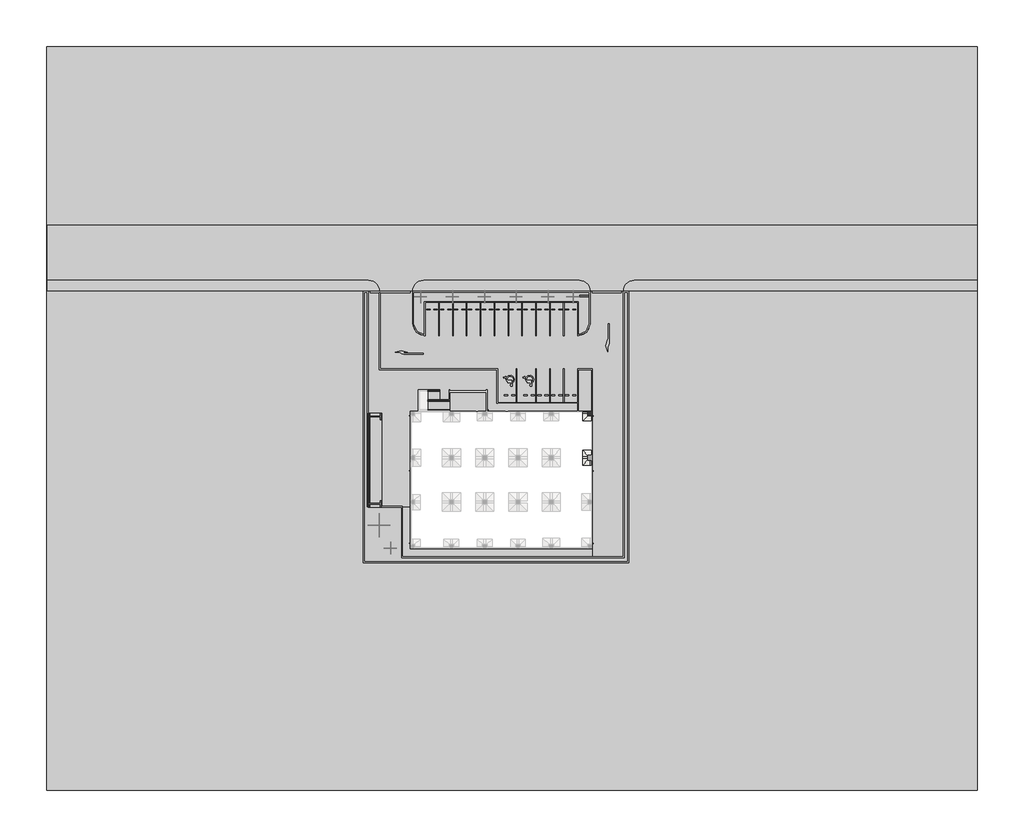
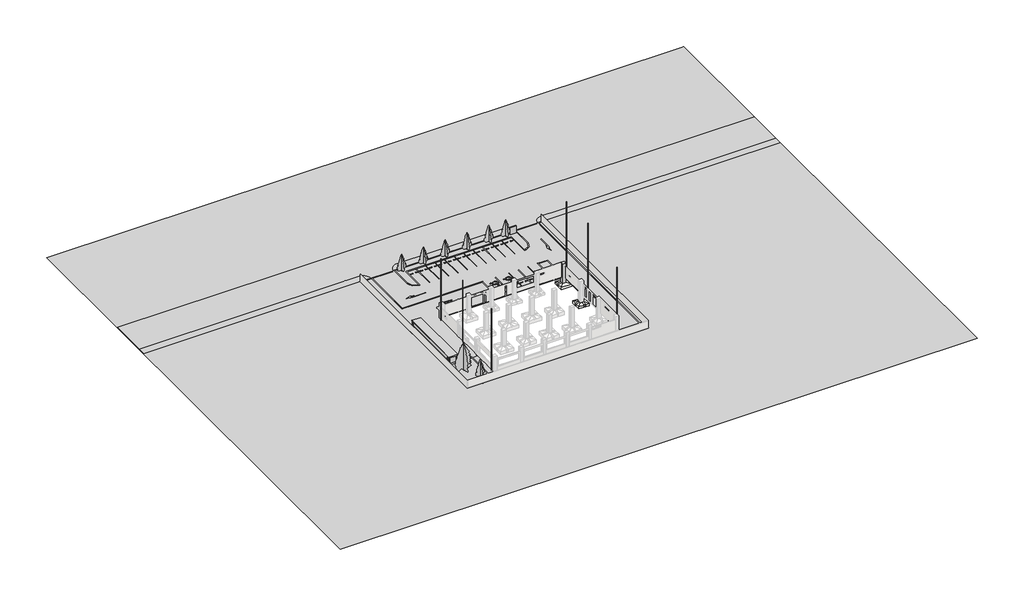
# One storey, part 4 of 4: 34 proxies, 14 geographic elements, 4 railings, 2 ramps, 2 slabs, 1 column.
"""IFC4 building model written with IfcOpenShell, lengths in millimetres."""

from ifc_helpers import new_model, si_unit, frame, origin, place, context, project, spatial, polyline, outline, extrude, faceted_brep, triangles, transform, mapped, element, save
from components import parking_f053e08a, parking_47fc6d20, parking_146f316f, generic_models_576e4361, generic_models_93210aff, generic_models_82cc7334, geographic_element_0894a9f6, geographic_element_8a4f6f01, geographic_element_bdb0ab01, geographic_element_bd6ab4d7, geographic_element_62d1d38a, w200_b9cd528b, w200_ae710f6c, ramp_1_20_a26907a8, ramp_1_20_5bf82f81

model = new_model("IFC4")

# Units and contexts
model_context = context("Model", 3, world=origin())
ifc_project = project(units=[si_unit("LENGTHUNIT", "METRE", prefix="MILLI")], contexts=[model_context])

# Site, building, storey
site = spatial("IfcSite", under=ifc_project)
building = spatial("IfcBuilding", under=site)
storey = spatial("IfcBuildingStorey", under=building, Name="設計GL=平均地盤面", Elevation=-300.0)

# Proxies
placement = place(None, origin())
element("IfcBuildingElementProxy", 1, Name="Building Element Proxy", at=placement, inside=storey, context=model_context, shape_type="Tessellation", body=[
    triangles([(-65997.3529907, 90131.6519531, -300.0000023), (-65997.3529907, -43956.954126, -300.0000023), (101830.4634521, -43956.954126, -300.0000023), (101830.4634521, 46000.0015137, -300.0000023), (39976.1878052, 46000.0015137, -300.0000023), (38925.0008057, 46000.0015137, -300.0000023), (38925.0008057, 45250.0007813, -300.0000023), (38925.0008057, -2900.0000221, -300.0000023), (-4888.888797, -2900.0000221, -300.0000023), (-8899.9997772, -2900.0000221, -300.0000023), (-8899.9997772, 46000.0015137, -300.0000023), (-65924.9992676, 46000.0015137, -300.0000023), (-65924.9992676, 48000.0003662, -300.0000023), (-65924.9992676, 57999.9992798, -300.0000023), (-24425.5486267, 57999.9992798, -300.0000023), (10395.1794434, 57999.9992798, -300.0000023), (56029.8544189, 57999.9992798, -300.0000023), (56795.2123535, 57999.9992798, -300.0000023), (101830.4634521, 57999.9992798, -300.0000023), (101830.4634521, 90131.6519531, -300.0000023)], [[2, 12, 1], [12, 2, 10], [9, 10, 2], [10, 11, 12], [2, 8, 9], [1, 14, 15], [14, 1, 13], [15, 16, 1], [1, 12, 13], [1, 16, 20], [6, 7, 5], [8, 4, 5], [3, 8, 2], [4, 8, 3], [8, 5, 7], [17, 18, 20], [19, 20, 18], [17, 20, 16]], closed=False),
])
element("IfcBuildingElementProxy", 2, Name="Building Element Proxy", at=placement, inside=storey, context=model_context, shape_type="Tessellation", body=[
    triangles([(0.0, 46000.0015137, -300.0000023), (50.1441776, 46445.0441162, -300.0000023), (198.0622564, 46867.7671509, -300.0000023), (436.3370293, 47246.9812134, -300.0000023), (753.0203882, 47563.664209, -300.0000023), (1132.2324886, 47801.9380371, -300.0000023), (1554.9581394, 47949.8545898, -300.0000023), (2000.0000153, 48000.0003662, -300.0000023), (29999.9990662, 48000.0003662, -300.0000023), (30445.0416687, 47949.8545898, -300.0000023), (30867.7670288, 47801.9380371, -300.0000023), (31246.9787659, 47563.664209, -300.0000023), (31563.6640869, 47246.9812134, -300.0000023), (31801.937915, 46867.7671509, -300.0000023), (31949.8567932, 46445.0441162, -300.0000023), (32000.0002441, 46000.0015137, -300.0000023), (37999.9991272, 46000.0015137, -300.0000023), (38041.8547119, 46371.462561, -300.0000023), (38050.1449036, 46445.0441162, -300.0000023), (38198.0614563, 46867.7671509, -300.0000023), (38436.3376099, 47246.9812134, -300.0000023), (38753.0206055, 47563.664209, -300.0000023), (39132.234668, 47801.9380371, -300.0000023), (39554.9577026, 47949.8545898, -300.0000023), (40000.0003052, 48000.0003662, -300.0000023), (41775.8081909, 48000.0003662, -300.0000023), (42779.3608887, 48000.0003662, -300.0000023), (101830.4634521, 48000.0003662, -300.0000023), (101830.4634521, 57999.9992798, -300.0000023), (56795.2123535, 57999.9992798, -300.0000023), (56029.8544189, 57999.9992798, -300.0000023), (10395.1794434, 57999.9992798, -300.0000023), (-24425.5486267, 57999.9992798, -300.0000023), (-65924.9992676, 57999.9992798, -300.0000023), (-65924.9992676, 48000.0003662, -300.0000023), (-11487.5918335, 48000.0003662, -300.0000023), (-8000.000061, 48000.0003662, -300.0000023), (-7554.9580399, 47949.8545898, -300.0000023), (-7132.2326797, 47801.9380371, -300.0000023), (-6753.0203613, 47563.664209, -300.0000023), (-6436.3367844, 47246.9812134, -300.0000023), (-6198.0623749, 46867.7671509, -300.0000023), (-6050.1440781, 46445.0441162, -300.0000023), (-6000.0000458, 46000.0015137, -300.0000023)], [[42, 43, 2], [40, 41, 4], [39, 40, 5], [42, 3, 41], [1, 2, 43], [2, 3, 42], [5, 40, 4], [4, 41, 3], [1, 43, 44], [39, 5, 6], [35, 36, 33], [35, 33, 34], [33, 36, 37], [33, 37, 32], [38, 6, 7], [38, 7, 32], [8, 9, 32], [32, 9, 31], [8, 32, 7], [38, 32, 37], [6, 38, 39], [15, 16, 18], [13, 14, 21], [12, 13, 22], [15, 20, 14], [18, 19, 15], [17, 18, 16], [21, 22, 13], [20, 21, 14], [19, 20, 15], [12, 22, 23], [11, 23, 24], [23, 11, 12], [31, 10, 24], [24, 10, 11], [31, 24, 25], [31, 26, 27], [30, 27, 28], [27, 30, 31], [30, 28, 29], [26, 31, 25], [10, 31, 9]], closed=False),
])
element("IfcBuildingElementProxy", 3, Name="Building Element Proxy", at=placement, inside=storey, context=model_context, shape_type="Tessellation", body=[
    triangles([(-6000.0000458, 46000.0015137, -300.0000023), (-6000.0000458, 45953.1253052, -300.0000023), (-6000.0000458, 32000.0002441, -300.0000023), (11097.0586945, 32000.0002441, -300.0000023), (15324.9994629, 32000.0002441, -300.0000023), (15324.9994629, 25999.9990356, -300.0000023), (29750.0003723, 25999.9990356, -300.0000023), (29750.0003723, 32000.0002441, -300.0000023), (32399.9990845, 32000.0002441, -300.0000023), (32399.9990845, 982.1229012, -300.0000023), (32399.9990845, -1486.2751225, -300.0000023), (32399.9990845, -1510.3910923, -300.0000023), (32399.9990845, -1850.0000141, -300.0000023), (33904.7025879, -1850.0000141, -300.0000023), (33985.8790283, -1850.0000141, -300.0000023), (37093.9823364, -1850.0000141, -300.0000023), (37999.9991272, -1850.0000141, -300.0000023), (37999.9991272, 44775.141394, -300.0000023), (37999.9991272, 45265.6230835, -300.0000023), (37999.9991272, 46000.0015137, -300.0000023), (32000.0002441, 46000.0015137, -300.0000023), (32000.0002441, 45359.3755005, -300.0000023), (32000.0002441, 41925.975769, -300.0000023), (32000.0002441, 40249.998999, -300.0000023), (31956.7679993, 39811.0490479, -300.0000023), (31828.729303, 39388.9631836, -300.0000023), (31620.8071106, 38999.9659973, -300.0000023), (31340.9893066, 38659.0100647, -300.0000023), (31000.033374, 38379.1922607, -300.0000023), (30611.0385132, 38171.2700684, -300.0000023), (30188.9526489, 38043.2336975, -300.0000023), (29750.0003723, 37999.9991272, -300.0000023), (29750.0003723, 40857.5433105, -300.0000023), (29750.0003723, 43999.9980103, -300.0000023), (2250.0000172, 43999.9980103, -300.0000023), (2250.0000172, 37999.9991272, -300.0000023), (1811.0467232, 38043.2336975, -300.0000023), (1388.9623123, 38171.2700684, -300.0000023), (999.9669428, 38379.1922607, -300.0000023), (659.0097748, 38659.0100647, -300.0000023), (379.1933879, 38999.9659973, -300.0000023), (171.2710502, 39388.9631836, -300.0000023), (43.2331169, 39811.0490479, -300.0000023), (0.0, 40249.998999, -300.0000023), (0.0, 45859.3728882, -300.0000023), (0.0, 46000.0015137, -300.0000023)], [[3, 36, 37], [36, 3, 4], [38, 39, 3], [37, 38, 3], [3, 39, 40], [5, 6, 7], [5, 7, 8], [4, 5, 35], [32, 5, 8], [31, 32, 8], [4, 35, 36], [32, 33, 5], [44, 45, 2], [43, 44, 2], [1, 2, 46], [46, 2, 45], [2, 3, 43], [43, 3, 42], [42, 3, 41], [5, 34, 35], [33, 34, 5], [3, 40, 41], [10, 17, 9], [31, 9, 30], [31, 8, 9], [30, 9, 29], [10, 11, 14], [15, 16, 10], [16, 17, 10], [12, 13, 14], [14, 15, 10], [14, 11, 12], [9, 17, 18], [28, 29, 9], [28, 9, 27], [25, 26, 18], [24, 25, 18], [9, 26, 27], [22, 23, 18], [18, 23, 24], [22, 18, 19], [22, 20, 21], [20, 22, 19], [18, 26, 9]], closed=False),
])
element("IfcBuildingElementProxy", 4, Name="Building Element Proxy", at=placement, inside=storey, context=model_context, shape_type="Tessellation", body=[
    triangles([(-5750.0001892, 24000.0001831, -300.0000023), (-5750.0001892, 7263.51362, -300.0000023), (-5750.0001892, 7099.9997635, -300.0000023), (-5037.0640549, 7099.9997635, -300.0000023), (-400.0000031, 7099.9997635, -300.0000023), (-400.0000031, 20772.06698, -300.0000023), (-400.0000031, 24420.0001282, -300.0000023), (29750.0003723, 24420.0001282, -300.0000023), (29750.0003723, 25849.9988892, -300.0000023), (15175.0004791, 25849.9988892, -300.0000023), (15175.0004791, 31850.0000977, -300.0000023), (10781.1768127, 31850.0000977, -300.0000023), (-6000.0000458, 31850.0000977, -300.0000023), (-6000.0000458, 45953.1253052, -300.0000023), (-6000.0000458, 46000.0015137, -300.0000023), (-8000.000061, 46000.0015137, -300.0000023), (-8000.000061, 45984.3745605, -300.0000023), (-8000.000061, 39230.7681885, -300.0000023), (-8000.000061, 34081.0801941, -300.0000023), (-8000.000061, 24000.0001831, -300.0000023), (-7154.1952927, 24000.0001831, -300.0000023)], [[19, 20, 13], [13, 21, 1], [21, 13, 20], [19, 13, 18], [16, 17, 15], [14, 15, 17], [14, 18, 13], [14, 17, 18], [1, 2, 6], [4, 5, 6], [4, 6, 2], [2, 3, 4], [1, 6, 7], [7, 10, 12], [12, 10, 11], [12, 13, 7], [9, 10, 8], [8, 10, 7], [7, 13, 1]], closed=False),
])
element("IfcBuildingElementProxy", 5, Name="Building Element Proxy", at=placement, inside=storey, context=model_context, shape_type="Tessellation", body=[
    triangles([(0.0, 40249.998999, -300.0000023), (43.2331169, 39811.0490479, -300.0000023), (171.2710502, 39388.9631836, -300.0000023), (379.1933879, 38999.9659973, -300.0000023), (659.0097748, 38659.0100647, -300.0000023), (999.9669428, 38379.1922607, -300.0000023), (1388.9623123, 38171.2700684, -300.0000023), (1811.0467232, 38043.2336975, -300.0000023), (2250.0000172, 37999.9991272, -300.0000023), (2250.0000172, 43999.9980103, -300.0000023), (29750.0003723, 43999.9980103, -300.0000023), (29750.0003723, 40857.5433105, -300.0000023), (29750.0003723, 37999.9991272, -300.0000023), (30188.9526489, 38043.2336975, -300.0000023), (30611.0385132, 38171.2700684, -300.0000023), (31000.033374, 38379.1922607, -300.0000023), (31340.9893066, 38659.0100647, -300.0000023), (31620.8071106, 38999.9659973, -300.0000023), (31828.729303, 39388.9631836, -300.0000023), (31956.7679993, 39811.0490479, -300.0000023), (32000.0002441, 40249.998999, -300.0000023), (32000.0002441, 41925.975769, -300.0000023), (32000.0002441, 45359.3755005, -300.0000023), (32000.0002441, 46000.0015137, -300.0000023), (0.0, 46000.0015137, -300.0000023), (0.0, 45859.3728882, -300.0000023)], [[1, 4, 5], [6, 1, 5], [1, 7, 8], [6, 7, 1], [1, 8, 9], [26, 1, 10], [25, 26, 10], [4, 1, 3], [25, 10, 24], [1, 9, 10], [3, 1, 2], [12, 14, 15], [12, 15, 16], [17, 18, 12], [17, 12, 16], [18, 19, 12], [21, 22, 12], [19, 20, 12], [12, 20, 21], [22, 11, 12], [23, 24, 11], [22, 23, 11], [11, 24, 10], [12, 13, 14]], closed=False),
])
element("IfcBuildingElementProxy", 6, Name="Building Element Proxy", at=placement, inside=storey, context=model_context, shape_type="Tessellation", body=[
    triangles([(-5750.0001892, 7099.9997635, -300.0000023), (-8000.000061, 7099.9997635, -300.0000023), (-8225.0002808, 7099.9997635, -300.0000023), (-8225.0002808, 24000.0001831, -300.0000023), (-8000.000061, 24000.0001831, -300.0000023), (-8000.000061, 34081.0801941, -300.0000023), (-8000.000061, 39230.7681885, -300.0000023), (-8000.000061, 45984.3745605, -300.0000023), (-8000.000061, 46000.0015137, -300.0000023), (-8849.9999222, 46000.0015137, -300.0000023), (-8849.9999222, 45997.6574707, -300.0000023), (-8849.9999222, 44984.61698, -300.0000023), (-8849.9999222, 44212.1618042, -300.0000023), (-8849.9999222, 41741.9358398, -300.0000023), (-8849.9999222, 2225.8064358, -300.0000023), (-8849.9999222, -1045.1612772, -300.0000023), (-8849.9999222, -2533.846209, -300.0000023), (-8849.9999222, -2849.9998764, -300.0000023), (-4901.6775513, -2849.9998764, -300.0000023), (38335.3949341, -2849.9998764, -300.0000023), (38345.9849854, -2849.9998764, -300.0000023), (38751.388147, -2849.9998764, -300.0000023), (38850.0007324, -2849.9998764, -300.0000023), (38850.0007324, 45178.7725708, -300.0000023), (38850.0007324, 45252.3448242, -300.0000023), (38850.0007324, 46000.0015137, -300.0000023), (37999.9991272, 46000.0015137, -300.0000023), (37999.9991272, 45265.6230835, -300.0000023), (37999.9991272, 44775.141394, -300.0000023), (37999.9991272, -2000.0000153, -300.0000023), (37342.5927429, -2000.0000153, -300.0000023), (34639.8949219, -2000.0000153, -300.0000023), (34569.3062073, -2000.0000153, -300.0000023), (-2000.0000153, -2000.0000153, -300.0000023), (-2000.0000153, 6253.631076, -300.0000023), (-2000.0000153, 6403.4422806, -300.0000023), (-2000.0000153, 7099.9997635, -300.0000023), (-5037.0640549, 7099.9997635, -300.0000023)], [[19, 15, 16], [35, 38, 15], [17, 19, 16], [2, 3, 15], [38, 1, 15], [2, 15, 1], [15, 3, 4], [17, 18, 19], [8, 12, 13], [8, 11, 12], [10, 11, 9], [8, 13, 14], [6, 7, 14], [6, 4, 5], [9, 11, 8], [8, 14, 7], [4, 6, 14], [14, 15, 4], [32, 20, 31], [19, 20, 33], [20, 32, 33], [19, 33, 34], [22, 23, 30], [30, 20, 21], [20, 30, 31], [30, 21, 22], [23, 24, 30], [35, 15, 34], [37, 38, 36], [36, 38, 35], [24, 25, 28], [28, 26, 27], [26, 28, 25], [24, 28, 29], [30, 24, 29], [19, 34, 15]], closed=False),
])
element("IfcBuildingElementProxy", 7, Name="Building Element Proxy", at=placement, inside=storey, context=model_context, shape_type="Tessellation", body=[
    triangles([(32399.9990845, -420.0000177, -300.0000023), (27750.9293701, -420.0000177, -300.0000023), (27568.8125793, -420.0000177, -300.0000023), (-400.0000031, -420.0000177, -300.0000023), (-400.0000031, 5892.5141647, -300.0000023), (-400.0000031, 6036.4792145, -300.0000023), (-400.0000031, 7099.9997635, -300.0000023), (-1850.0000141, 7099.9997635, -300.0000023), (-1850.0000141, 6369.0397293, -300.0000023), (-1850.0000141, 6219.7767471, -300.0000023), (-1850.0000141, -1850.0000141, -300.0000023), (32399.9990845, -1850.0000141, -300.0000023), (32399.9990845, -1510.3910923, -300.0000023), (32399.9990845, -1486.2751225, -300.0000023)], [[5, 10, 4], [4, 10, 11], [10, 5, 6], [8, 9, 7], [6, 9, 10], [9, 6, 7], [13, 14, 2], [12, 13, 2], [11, 3, 4], [3, 12, 2], [14, 1, 2], [3, 11, 12]], closed=False),
])
element("IfcBuildingElementProxy", 8, Name="Building Element Proxy", at=placement, inside=storey, context=model_context, shape_type="Tessellation", body=[
    triangles([(32270.0000427, 31850.0000977, -300.0000023), (29900.0005188, 31850.0000977, -300.0000023), (29900.0005188, 24420.0001282, -300.0000023), (32270.0000427, 24420.0001282, -300.0000023)], [[2, 3, 4], [4, 1, 2]], closed=False),
])
element("IfcBuildingElementProxy", 9, Name="Building Element Proxy", at=placement, inside=storey, context=model_context, shape_type="Tessellation", body=[
    triangles([(-8899.9997772, 46000.0015137, -300.0000023), (-6000.0000458, 46000.0015137, -300.0000023), (-6050.1440781, 46445.0441162, -300.0000023), (-6198.0623749, 46867.7671509, -300.0000023), (-6436.3367844, 47246.9812134, -300.0000023), (-6753.0203613, 47563.664209, -300.0000023), (-7132.2326797, 47801.9380371, -300.0000023), (-7554.9580399, 47949.8545898, -300.0000023), (-8000.000061, 48000.0003662, -300.0000023), (-11487.5918335, 48000.0003662, -300.0000023), (-65924.9992676, 48000.0003662, -300.0000023), (-65924.9992676, 46000.0015137, -300.0000023), (38925.0008057, 46000.0015137, -300.0000023), (39976.1878052, 46000.0015137, -300.0000023), (101830.4634521, 46000.0015137, -300.0000023), (101830.4634521, 48000.0003662, -300.0000023), (42779.3608887, 48000.0003662, -300.0000023), (41775.8081909, 48000.0003662, -300.0000023), (40000.0003052, 48000.0003662, -300.0000023), (39554.9577026, 47949.8545898, -300.0000023), (39132.234668, 47801.9380371, -300.0000023), (38753.0206055, 47563.664209, -300.0000023), (38436.3376099, 47246.9812134, -300.0000023), (38198.0614563, 46867.7671509, -300.0000023), (38050.1449036, 46445.0441162, -300.0000023), (38041.8547119, 46371.462561, -300.0000023), (37999.9991272, 46000.0015137, -300.0000023), (0.0, 46000.0015137, -300.0000023), (32000.0002441, 46000.0015137, -300.0000023), (31949.8567932, 46445.0441162, -300.0000023), (31801.937915, 46867.7671509, -300.0000023), (31563.6640869, 47246.9812134, -300.0000023), (31246.9787659, 47563.664209, -300.0000023), (30867.7670288, 47801.9380371, -300.0000023), (30445.0416687, 47949.8545898, -300.0000023), (29999.9990662, 48000.0003662, -300.0000023), (2000.0000153, 48000.0003662, -300.0000023), (1554.9581394, 47949.8545898, -300.0000023), (1132.2324886, 47801.9380371, -300.0000023), (753.0203882, 47563.664209, -300.0000023), (436.3370293, 47246.9812134, -300.0000023), (198.0622564, 46867.7671509, -300.0000023), (50.1441776, 46445.0441162, -300.0000023)], [[10, 12, 1], [1, 4, 5], [4, 1, 3], [1, 2, 3], [6, 1, 5], [28, 42, 43], [42, 28, 41], [28, 40, 41], [7, 8, 1], [1, 9, 10], [9, 1, 8], [10, 11, 12], [40, 28, 39], [38, 39, 28], [28, 37, 38], [28, 36, 37], [1, 6, 7], [28, 29, 36], [29, 31, 32], [31, 29, 30], [29, 32, 33], [23, 24, 13], [14, 22, 13], [13, 25, 26], [25, 13, 24], [13, 26, 27], [15, 17, 14], [35, 29, 34], [13, 22, 23], [34, 29, 33], [21, 22, 14], [20, 21, 14], [20, 14, 19], [18, 19, 14], [17, 18, 14], [15, 16, 17], [29, 35, 36]], closed=False),
])
parking_shape = parking_f053e08a(model_context)
element("IfcBuildingElementProxy", 10, Name="駐車場スペース : 4800 x 2400 mm - 90 度", ObjectType="駐車場スペース : 4800 x 2400 mm - 90 度", at=placement, inside=storey, context=model_context, shape_type="MappedRepresentation", body=[
    mapped(parking_shape, transform((27250.0, 44000.0, -300.0), x_axis=(1.0, 0.0, 0.0), y_axis=(0.0, 1.0, 0.0), z_axis=(0.0, 0.0, 1.0))),
])
element("IfcBuildingElementProxy", 11, Name="駐車場スペース : 4800 x 2400 mm - 90 度", ObjectType="駐車場スペース : 4800 x 2400 mm - 90 度", at=placement, inside=storey, context=model_context, shape_type="MappedRepresentation", body=[
    mapped(parking_shape, transform((22250.0, 26000.0, -300.0), x_axis=(-1.0, 0.0, 0.0), y_axis=(0.0, -1.0, 0.0), z_axis=(0.0, 0.0, 1.0))),
])
element("IfcBuildingElementProxy", 12, Name="駐車場スペース : 4800 x 2400 mm - 90 度", ObjectType="駐車場スペース : 4800 x 2400 mm - 90 度", at=placement, inside=storey, context=model_context, shape_type="MappedRepresentation", body=[
    mapped(parking_shape, transform((18750.0, 26000.0, -300.0), x_axis=(-1.0, 0.0, 0.0), y_axis=(0.0, -1.0, 0.0), z_axis=(0.0, 0.0, 1.0))),
])
parking_2_shape = parking_47fc6d20(model_context)
element("IfcBuildingElementProxy", 13, Name="駐車場スペース : 4800 x 2400 mm - 90 度", ObjectType="駐車場スペース : 4800 x 2400 mm - 90 度", at=placement, inside=storey, context=model_context, shape_type="MappedRepresentation", body=[
    mapped(parking_2_shape, transform((4750.0, 44000.0, -300.0), x_axis=(-1.0, 0.0, 0.0), y_axis=(0.0, -1.0, 0.0), z_axis=(0.0, 0.0, 1.0))),
])
element("IfcBuildingElementProxy", 14, Name="駐車場スペース : 4800 x 2400 mm - 90 度", ObjectType="駐車場スペース : 4800 x 2400 mm - 90 度", at=placement, inside=storey, context=model_context, shape_type="MappedRepresentation", body=[
    mapped(parking_2_shape, transform((7250.0, 44000.0, -300.0), x_axis=(-1.0, 0.0, 0.0), y_axis=(0.0, -1.0, 0.0), z_axis=(0.0, 0.0, 1.0))),
])
element("IfcBuildingElementProxy", 15, Name="駐車場スペース : 4800 x 2400 mm - 90 度", ObjectType="駐車場スペース : 4800 x 2400 mm - 90 度", at=placement, inside=storey, context=model_context, shape_type="MappedRepresentation", body=[
    mapped(parking_2_shape, transform((9750.0, 44000.0, -300.0), x_axis=(-1.0, 0.0, 0.0), y_axis=(0.0, -1.0, 0.0), z_axis=(0.0, 0.0, 1.0))),
])
element("IfcBuildingElementProxy", 16, Name="駐車場スペース : 4800 x 2400 mm - 90 度", ObjectType="駐車場スペース : 4800 x 2400 mm - 90 度", at=placement, inside=storey, context=model_context, shape_type="MappedRepresentation", body=[
    mapped(parking_2_shape, transform((12250.0, 44000.0, -300.0), x_axis=(-1.0, 0.0, 0.0), y_axis=(0.0, -1.0, 0.0), z_axis=(0.0, 0.0, 1.0))),
])
element("IfcBuildingElementProxy", 17, Name="駐車場スペース : 4800 x 2400 mm - 90 度", ObjectType="駐車場スペース : 4800 x 2400 mm - 90 度", at=placement, inside=storey, context=model_context, shape_type="MappedRepresentation", body=[
    mapped(parking_2_shape, transform((14750.0, 44000.0, -300.0), x_axis=(-1.0, 0.0, 0.0), y_axis=(0.0, -1.0, 0.0), z_axis=(0.0, 0.0, 1.0))),
])
element("IfcBuildingElementProxy", 18, Name="駐車場スペース : 4800 x 2400 mm - 90 度", ObjectType="駐車場スペース : 4800 x 2400 mm - 90 度", at=placement, inside=storey, context=model_context, shape_type="MappedRepresentation", body=[
    mapped(parking_2_shape, transform((17250.0, 44000.0, -300.0), x_axis=(-1.0, 0.0, 0.0), y_axis=(0.0, -1.0, 0.0), z_axis=(0.0, 0.0, 1.0))),
])
element("IfcBuildingElementProxy", 19, Name="駐車場スペース : 4800 x 2400 mm - 90 度", ObjectType="駐車場スペース : 4800 x 2400 mm - 90 度", at=placement, inside=storey, context=model_context, shape_type="MappedRepresentation", body=[
    mapped(parking_2_shape, transform((19750.0, 44000.0, -300.0), x_axis=(-1.0, 0.0, 0.0), y_axis=(0.0, -1.0, 0.0), z_axis=(0.0, 0.0, 1.0))),
])
element("IfcBuildingElementProxy", 20, Name="駐車場スペース : 4800 x 2400 mm - 90 度", ObjectType="駐車場スペース : 4800 x 2400 mm - 90 度", at=placement, inside=storey, context=model_context, shape_type="MappedRepresentation", body=[
    mapped(parking_2_shape, transform((22250.0, 44000.0, -300.0), x_axis=(-1.0, 0.0, 0.0), y_axis=(0.0, -1.0, 0.0), z_axis=(0.0, 0.0, 1.0))),
])
element("IfcBuildingElementProxy", 21, Name="駐車場スペース : 4800 x 2400 mm - 90 度", ObjectType="駐車場スペース : 4800 x 2400 mm - 90 度", at=placement, inside=storey, context=model_context, shape_type="MappedRepresentation", body=[
    mapped(parking_2_shape, transform((24750.0, 44000.0, -300.0), x_axis=(-1.0, 0.0, 0.0), y_axis=(0.0, -1.0, 0.0), z_axis=(0.0, 0.0, 1.0))),
])
element("IfcBuildingElementProxy", 22, Name="駐車場スペース : 4800 x 2400 mm - 90 度", ObjectType="駐車場スペース : 4800 x 2400 mm - 90 度", at=placement, inside=storey, context=model_context, shape_type="MappedRepresentation", body=[
    mapped(parking_2_shape, transform((27250.0, 44000.0, -300.0), x_axis=(-1.0, 0.0, 0.0), y_axis=(0.0, -1.0, 0.0), z_axis=(0.0, 0.0, 1.0))),
])
element("IfcBuildingElementProxy", 23, Name="駐車場スペース : 4800 x 2400 mm - 90 度", ObjectType="駐車場スペース : 4800 x 2400 mm - 90 度", at=placement, inside=storey, context=model_context, shape_type="MappedRepresentation", body=[
    mapped(parking_2_shape, transform((27250.0, 26000.0, -300.0), x_axis=(1.0, 0.0, 0.0), y_axis=(0.0, 1.0, 0.0), z_axis=(0.0, 0.0, 1.0))),
])
element("IfcBuildingElementProxy", 24, Name="駐車場スペース : 4800 x 2400 mm - 90 度", ObjectType="駐車場スペース : 4800 x 2400 mm - 90 度", at=placement, inside=storey, context=model_context, shape_type="MappedRepresentation", body=[
    mapped(parking_2_shape, transform((24750.0, 26000.0, -300.0), x_axis=(1.0, 0.0, 0.0), y_axis=(0.0, 1.0, 0.0), z_axis=(0.0, 0.0, 1.0))),
])
element("IfcBuildingElementProxy", 25, Name="駐車場スペース : 4800 x 2400 mm - 90 度", ObjectType="駐車場スペース : 4800 x 2400 mm - 90 度", at=placement, inside=storey, context=model_context, shape_type="MappedRepresentation", body=[
    mapped(parking_2_shape, transform((22250.0, 26000.0, -300.0), x_axis=(1.0, 0.0, 0.0), y_axis=(0.0, 1.0, 0.0), z_axis=(0.0, 0.0, 1.0))),
])
parking_3_shape = parking_146f316f(model_context)
element("IfcBuildingElementProxy", 26, Name="駐車エリア - 身障者用 : 駐車エリア - 身障者用", ObjectType="駐車エリア - 身障者用 : 駐車エリア - 身障者用", at=placement, inside=storey, context=model_context, shape_type="MappedRepresentation", body=[
    mapped(parking_3_shape, transform((17550.0, 30095.7679295, -299.2196314), x_axis=(-1.0, 0.0, 0.0), y_axis=(0.0, -1.0, 0.0), z_axis=(0.0, 0.0, 1.0))),
])
element("IfcBuildingElementProxy", 27, Name="駐車エリア - 身障者用 : 駐車エリア - 身障者用", ObjectType="駐車エリア - 身障者用 : 駐車エリア - 身障者用", at=placement, inside=storey, context=model_context, shape_type="MappedRepresentation", body=[
    mapped(parking_3_shape, transform((21050.0, 30095.7679295, -299.2196314), x_axis=(-1.0, 0.0, 0.0), y_axis=(0.0, -1.0, 0.0), z_axis=(0.0, 0.0, 1.0))),
])
generic_models_shape = generic_models_576e4361(model_context)
element("IfcBuildingElementProxy", 28, Name="営_3D_竪樋 : 3D_竪樋", ObjectType="営_3D_竪樋 : 3D_竪樋", at=placement, inside=storey, context=model_context, shape_type="MappedRepresentation", body=[
    mapped(generic_models_shape, transform((-515.0, 23535.0, 0.0), x_axis=(1.0, 0.0, 0.0), y_axis=(0.0, 1.0, 0.0), z_axis=(0.0, 0.0, 1.0))),
])
element("IfcBuildingElementProxy", 29, Name="営_3D_竪樋 : 3D_竪樋", ObjectType="営_3D_竪樋 : 3D_竪樋", at=placement, inside=storey, context=model_context, shape_type="MappedRepresentation", body=[
    mapped(generic_models_shape, transform((32520.0, 560.0, 0.0), x_axis=(1.0, 0.0, 0.0), y_axis=(0.0, 1.0, 0.0), z_axis=(0.0, 0.0, 1.0))),
])
element("IfcBuildingElementProxy", 30, Name="営_3D_竪樋 : 3D_竪樋", ObjectType="営_3D_竪樋 : 3D_竪樋", at=placement, inside=storey, context=model_context, shape_type="MappedRepresentation", body=[
    mapped(generic_models_shape, transform((-515.0, 560.0, 0.0), x_axis=(1.0, 0.0, 0.0), y_axis=(0.0, 1.0, 0.0), z_axis=(0.0, 0.0, 1.0))),
])
element("IfcBuildingElementProxy", 31, Name="営_3D_竪樋 : 3D_竪樋", ObjectType="営_3D_竪樋 : 3D_竪樋", at=placement, inside=storey, context=model_context, shape_type="MappedRepresentation", body=[
    mapped(generic_models_shape, transform((-515.0, 13630.0, 0.0), x_axis=(1.0, 0.0, 0.0), y_axis=(0.0, 1.0, 0.0), z_axis=(0.0, 0.0, 1.0))),
])
generic_models_2_shape = generic_models_93210aff(model_context)
element("IfcBuildingElementProxy", 32, Name="営_3D_竪樋 : 3D_竪樋", ObjectType="営_3D_竪樋 : 3D_竪樋", at=placement, inside=storey, context=model_context, shape_type="MappedRepresentation", body=[
    mapped(generic_models_2_shape, transform((32520.0, 23535.0, 0.0), x_axis=(1.0, 0.0, 0.0), y_axis=(0.0, 1.0, 0.0), z_axis=(0.0, 0.0, 1.0))),
])
element("IfcBuildingElementProxy", 33, Name="営_3D_竪樋 : 3D_竪樋", ObjectType="営_3D_竪樋 : 3D_竪樋", at=placement, inside=storey, context=model_context, shape_type="MappedRepresentation", body=[
    mapped(generic_models_2_shape, transform((32520.0, 13630.0, 0.0), x_axis=(1.0, 0.0, 0.0), y_axis=(0.0, 1.0, 0.0), z_axis=(0.0, 0.0, 1.0))),
])
generic_models_3_shape = generic_models_82cc7334(model_context)
element("IfcBuildingElementProxy", 34, Name="営_3D_竪樋 : 3D_竪樋", ObjectType="営_3D_竪樋 : 3D_竪樋", at=placement, inside=storey, context=model_context, shape_type="MappedRepresentation", body=[
    mapped(generic_models_3_shape, transform((13600.0, 24600.0, 0.0), x_axis=(1.0, 0.0, 0.0), y_axis=(0.0, 1.0, 0.0), z_axis=(0.0, 0.0, 1.0))),
])

# Column
element("IfcColumn", 35, ObjectType="営_RC柱_角 : 800*800", at=placement, inside=storey, context=model_context, shape_type="Brep", body=[
    faceted_brep([(32420.0, 24420.0, -1350.0), (32420.0, 23580.0, -1350.0), (31580.0, 23580.0, -1350.0), (31580.0, 24420.0, -1350.0), (32420.0, 24420.0, 4000.0), (32420.0, 23580.0, 4000.0), (32420.0, 23580.0, 3100.0), (32420.0, 23580.0, -10.0), (32325.0, 23580.0, 4000.0), (31580.0, 23580.0, 4000.0), (31580.0, 23580.0, 0.0), (31580.0, 23580.0, -10.0), (31580.0, 23580.0, -160.0), (31580.0, 24250.0, 4000.0), (31580.0, 24420.0, 4000.0), (31580.0, 24420.0, -10.0)], [[[0, 1, 2, 3]], [[4, 5, 6, 7, 1, 0]], [[5, 8, 9, 10, 11, 12, 2, 1, 7, 6]], [[9, 13, 14, 15, 3, 2, 12, 11, 10]], [[14, 4, 0, 3, 15]], [[4, 14, 13, 9, 8, 5]]]),
])

# Geographic elements
geographic_element_shape = geographic_element_0894a9f6(model_context)
element("IfcGeographicElement", 36, ObjectType="営_道路標識 : 道路標識", at=placement, inside=storey, context=model_context, shape_type="MappedRepresentation", body=[
    mapped(geographic_element_shape, transform((35145.0, 37625.0, -300.0), x_axis=(1.0, 0.0, 0.0), y_axis=(0.0, 1.0, 0.0), z_axis=(0.0, 0.0, 1.0))),
])
element("IfcGeographicElement", 37, ObjectType="営_道路標識 : 道路標識", at=placement, inside=storey, context=model_context, shape_type="MappedRepresentation", body=[
    mapped(geographic_element_shape, transform((-625.0, 34975.0, -300.0), x_axis=(0.0, -1.0, 0.0), y_axis=(1.0, 0.0, 0.0), z_axis=(0.0, 0.0, 1.0))),
])
geographic_element_2_shape = geographic_element_8a4f6f01(model_context)
element("IfcGeographicElement", 38, ObjectType="営_自転車置場 : 自転車置場", at=placement, inside=storey, context=model_context, shape_type="MappedRepresentation", body=[
    mapped(geographic_element_2_shape, transform((-7945.0, 7100.0, -300.0), x_axis=(0.0, 1.0, 0.0), y_axis=(-1.0, 0.0, 0.0), z_axis=(0.0, 0.0, 1.0))),
])
geographic_element_3_shape = geographic_element_bdb0ab01(model_context)
element("IfcGeographicElement", 39, ObjectType="営_庁名板 : 庁名板", at=placement, inside=storey, context=model_context, shape_type="MappedRepresentation", body=[
    mapped(geographic_element_3_shape, transform((30925.0, 45025.0, -300.0), x_axis=(1.0, 0.0, 0.0), y_axis=(0.0, 1.0, 0.0), z_axis=(0.0, 0.0, 1.0))),
])
geographic_element_4_shape = geographic_element_bd6ab4d7(model_context)
element("IfcGeographicElement", 40, ObjectType="木 - 針葉樹 : カナダツガ - 7.6 メートル", at=placement, inside=storey, context=model_context, shape_type="MappedRepresentation", body=[
    mapped(geographic_element_4_shape, transform((-6024.9417187, 3786.7815806, -310.0), x_axis=(1.0, 0.0, 0.0), y_axis=(0.0, 1.0, 0.0), z_axis=(0.0, 0.0, 1.0))),
])
geographic_element_5_shape = geographic_element_62d1d38a(model_context)
element("IfcGeographicElement", 41, ObjectType="木 - 針葉樹 : オウシュウトウヒ - 4.6 メートル", at=placement, inside=storey, context=model_context, shape_type="MappedRepresentation", body=[
    mapped(geographic_element_5_shape, transform((1499.8033289, 45025.0, -310.0), x_axis=(1.0, 0.0, 0.0), y_axis=(0.0, 1.0, 0.0), z_axis=(0.0, 0.0, 1.0))),
])
element("IfcGeographicElement", 42, ObjectType="木 - 針葉樹 : オウシュウトウヒ - 4.6 メートル", at=placement, inside=storey, context=model_context, shape_type="MappedRepresentation", body=[
    mapped(geographic_element_5_shape, transform((7240.0582813, 45025.0, -310.0), x_axis=(1.0, 0.0, 0.0), y_axis=(0.0, 1.0, 0.0), z_axis=(0.0, 0.0, 1.0))),
])
element("IfcGeographicElement", 43, ObjectType="木 - 針葉樹 : オウシュウトウヒ - 4.6 メートル", at=placement, inside=storey, context=model_context, shape_type="MappedRepresentation", body=[
    mapped(geographic_element_5_shape, transform((12980.0582813, 45025.0, -310.0), x_axis=(1.0, 0.0, 0.0), y_axis=(0.0, 1.0, 0.0), z_axis=(0.0, 0.0, 1.0))),
])
element("IfcGeographicElement", 44, ObjectType="木 - 針葉樹 : オウシュウトウヒ - 4.6 メートル", at=placement, inside=storey, context=model_context, shape_type="MappedRepresentation", body=[
    mapped(geographic_element_5_shape, transform((18720.0582813, 45025.0, -310.0), x_axis=(1.0, 0.0, 0.0), y_axis=(0.0, 1.0, 0.0), z_axis=(0.0, 0.0, 1.0))),
])
element("IfcGeographicElement", 45, ObjectType="木 - 針葉樹 : オウシュウトウヒ - 4.6 メートル", at=placement, inside=storey, context=model_context, shape_type="MappedRepresentation", body=[
    mapped(geographic_element_5_shape, transform((24460.0582813, 45025.0, -310.0), x_axis=(1.0, 0.0, 0.0), y_axis=(0.0, 1.0, 0.0), z_axis=(0.0, 0.0, 1.0))),
])
element("IfcGeographicElement", 46, ObjectType="木 - 針葉樹 : オウシュウトウヒ - 4.6 メートル", at=placement, inside=storey, context=model_context, shape_type="MappedRepresentation", body=[
    mapped(geographic_element_5_shape, transform((28925.0582813, 45025.0, -310.0), x_axis=(1.0, 0.0, 0.0), y_axis=(0.0, 1.0, 0.0), z_axis=(0.0, 0.0, 1.0))),
])
element("IfcGeographicElement", 47, ObjectType="木 - 針葉樹 : オウシュウトウヒ - 4.6 メートル", at=placement, inside=storey, context=model_context, shape_type="MappedRepresentation", body=[
    mapped(geographic_element_5_shape, transform((-3924.9417187, -276.7795186, -310.0), x_axis=(1.0, 0.0, 0.0), y_axis=(0.0, 1.0, 0.0), z_axis=(0.0, 0.0, 1.0))),
])
w200_shape = w200_b9cd528b(model_context)
element("IfcGeographicElement", 48, ObjectType="営_(外構)グレーチング : W200", at=placement, inside=storey, context=model_context, shape_type="MappedRepresentation", body=[
    mapped(w200_shape, transform((-7600.0, 45895.0, -300.0), x_axis=(1.0, 0.0, 0.0), y_axis=(0.0, 1.0, 0.0), z_axis=(0.0, 0.0, 1.0))),
])
w200_2_shape = w200_ae710f6c(model_context)
element("IfcGeographicElement", 49, ObjectType="営_(外構)グレーチング : W200", at=placement, inside=storey, context=model_context, shape_type="MappedRepresentation", body=[
    mapped(w200_2_shape, transform((32400.0, 45895.0, -300.0), x_axis=(1.0, 0.0, 0.0), y_axis=(0.0, 1.0, 0.0), z_axis=(0.0, 0.0, 1.0))),
])

# Railings
element("IfcRailing", 50, ObjectType="外部スロープ手摺_H=1000", at=placement, inside=storey, context=model_context, shape_type="SweptSolid", body=[
    extrude(outline(polyline([(690.988757, 4930.0), (700.0, 4930.0), (810.75, 2715.0), (801.738757, 2715.0), (690.988757, 4930.0)])), frame((0.0, 28006.0, 0.0), z_axis=(0.0, 1.0, 0.0), x_axis=(0.0, 0.0, 1.0)), (0.0, 0.0, 1.0), 38.0),
    extrude(outline(polyline([(490.988757, 4930.0), (500.0, 4930.0), (610.75, 2715.0), (601.738757, 2715.0), (490.988757, 4930.0)])), frame((0.0, 28012.5, 0.0), z_axis=(0.0, 1.0, 0.0), x_axis=(0.0, 0.0, 1.0)), (0.0, 0.0, 1.0), 25.0),
    extrude(outline(polyline([(746.138757, 3827.0), (746.588757, 3818.0), (-244.4, 3818.0), (-244.85, 3827.0), (746.138757, 3827.0)])), frame((0.0, 28012.5, 0.0), z_axis=(0.0, 1.0, 0.0), x_axis=(0.0, 0.0, 1.0)), (0.0, 0.0, 1.0), 25.0),
    extrude(outline(polyline([(799.013757, 2769.5), (799.463757, 2760.5), (-191.525, 2760.5), (-191.975, 2769.5), (799.013757, 2769.5)])), frame((0.0, 28012.5, 0.0), z_axis=(0.0, 1.0, 0.0), x_axis=(0.0, 0.0, 1.0)), (0.0, 0.0, 1.0), 25.0),
    extrude(outline(polyline([(693.263757, 4884.5), (693.713757, 4875.5), (-297.275, 4875.5), (-297.725, 4884.5), (693.263757, 4884.5)])), frame((0.0, 28012.5, 0.0), z_axis=(0.0, 1.0, 0.0), x_axis=(0.0, 0.0, 1.0)), (0.0, 0.0, 1.0), 25.0),
])
element("IfcRailing", 51, ObjectType="外部スロープ手摺_H=1000", at=placement, inside=storey, context=model_context, shape_type="SweptSolid", body=[
    extrude(outline(polyline([(690.988757, 4930.0), (700.0, 4930.0), (810.75, 2715.0), (801.738757, 2715.0), (690.988757, 4930.0)])), frame((0.0, 26456.0, 0.0), z_axis=(0.0, 1.0, 0.0), x_axis=(0.0, 0.0, 1.0)), (0.0, 0.0, 1.0), 38.0),
    extrude(outline(polyline([(490.988757, 4930.0), (500.0, 4930.0), (610.75, 2715.0), (601.738757, 2715.0), (490.988757, 4930.0)])), frame((0.0, 26462.5, 0.0), z_axis=(0.0, 1.0, 0.0), x_axis=(0.0, 0.0, 1.0)), (0.0, 0.0, 1.0), 25.0),
    extrude(outline(polyline([(-244.85, 3827.0), (746.138757, 3827.0), (746.588757, 3818.0), (-244.4, 3818.0), (-244.85, 3827.0)])), frame((0.0, 26462.5, 0.0), z_axis=(0.0, 1.0, 0.0), x_axis=(0.0, 0.0, 1.0)), (0.0, 0.0, 1.0), 25.0),
    extrude(outline(polyline([(-191.975, 2769.5), (799.013757, 2769.5), (799.463757, 2760.5), (-191.525, 2760.5), (-191.975, 2769.5)])), frame((0.0, 26462.5, 0.0), z_axis=(0.0, 1.0, 0.0), x_axis=(0.0, 0.0, 1.0)), (0.0, 0.0, 1.0), 25.0),
    extrude(outline(polyline([(-297.725, 4884.5), (693.263757, 4884.5), (693.713757, 4875.5), (-297.275, 4875.5), (-297.725, 4884.5)])), frame((0.0, 26462.5, 0.0), z_axis=(0.0, 1.0, 0.0), x_axis=(0.0, 0.0, 1.0)), (0.0, 0.0, 1.0), 25.0),
])
element("IfcRailing", 52, ObjectType="外部スロープ手摺_H=1000", at=placement, inside=storey, context=model_context, shape_type="SweptSolid", body=[
    extrude(outline(polyline([(800.0, 2715.0), (790.988757, 2715.0), (991.0086943, 6715.3987464), (1000.0199373, 6715.3987464), (800.0, 2715.0)])), frame((0.0, 24656.0, 0.0), z_axis=(0.0, 1.0, 0.0), x_axis=(0.0, 0.0, 1.0)), (0.0, 0.0, 1.0), 38.0),
    extrude(outline(polyline([(600.0, 2715.0), (590.988757, 2715.0), (791.0086943, 6715.3987464), (800.0199373, 6715.3987464), (600.0, 2715.0)])), frame((0.0, 24662.5, 0.0), z_axis=(0.0, 1.0, 0.0), x_axis=(0.0, 0.0, 1.0)), (0.0, 0.0, 1.0), 25.0),
    extrude(outline(polyline([(-50.210047, 5710.7990598), (-49.760047, 5719.7990598), (941.22871, 5719.7990598), (940.77871, 5710.7990598), (-50.210047, 5710.7990598)])), frame((0.0, 24662.5, 0.0), z_axis=(0.0, 1.0, 0.0), x_axis=(0.0, 0.0, 1.0)), (0.0, 0.0, 1.0), 25.0),
    extrude(outline(polyline([(-100.2150313, 4710.6993732), (-99.7650313, 4719.6993732), (891.2237257, 4719.6993732), (890.7737257, 4710.6993732), (-100.2150313, 4710.6993732)])), frame((0.0, 24662.5, 0.0), z_axis=(0.0, 1.0, 0.0), x_axis=(0.0, 0.0, 1.0)), (0.0, 0.0, 1.0), 25.0),
    extrude(outline(polyline([(-150.2200157, 3710.5996866), (-149.7700157, 3719.5996866), (841.2187414, 3719.5996866), (840.7687414, 3710.5996866), (-150.2200157, 3710.5996866)])), frame((0.0, 24662.5, 0.0), z_axis=(0.0, 1.0, 0.0), x_axis=(0.0, 0.0, 1.0)), (0.0, 0.0, 1.0), 25.0),
    extrude(outline(polyline([(-2.7050627, 6660.8987464), (-2.2550627, 6669.8987464), (988.7336943, 6669.8987464), (988.2836943, 6660.8987464), (-2.7050627, 6660.8987464)])), frame((0.0, 24662.5, 0.0), z_axis=(0.0, 1.0, 0.0), x_axis=(0.0, 0.0, 1.0)), (0.0, 0.0, 1.0), 25.0),
    extrude(outline(polyline([(-197.725, 2760.5), (-197.275, 2769.5), (793.713757, 2769.5), (793.263757, 2760.5), (-197.725, 2760.5)])), frame((0.0, 24662.5, 0.0), z_axis=(0.0, 1.0, 0.0), x_axis=(0.0, 0.0, 1.0)), (0.0, 0.0, 1.0), 25.0),
])
element("IfcRailing", 53, ObjectType="外部スロープ手摺_H=1000", at=placement, inside=storey, context=model_context, shape_type="SweptSolid", body=[
    extrude(outline(polyline([(800.0, 2715.0), (790.988757, 2715.0), (991.0086943, 6715.3987464), (1000.0199373, 6715.3987464), (800.0, 2715.0)])), frame((0.0, 26206.0, 0.0), z_axis=(0.0, 1.0, 0.0), x_axis=(0.0, 0.0, 1.0)), (0.0, 0.0, 1.0), 38.0),
    extrude(outline(polyline([(600.0, 2715.0), (590.988757, 2715.0), (791.0086943, 6715.3987464), (800.0199373, 6715.3987464), (600.0, 2715.0)])), frame((0.0, 26212.5, 0.0), z_axis=(0.0, 1.0, 0.0), x_axis=(0.0, 0.0, 1.0)), (0.0, 0.0, 1.0), 25.0),
    extrude(outline(polyline([(940.77871, 5710.7990598), (-50.210047, 5710.7990598), (-49.760047, 5719.7990598), (941.22871, 5719.7990598), (940.77871, 5710.7990598)])), frame((0.0, 26212.5, 0.0), z_axis=(0.0, 1.0, 0.0), x_axis=(0.0, 0.0, 1.0)), (0.0, 0.0, 1.0), 25.0),
    extrude(outline(polyline([(890.7737257, 4710.6993732), (-100.2150313, 4710.6993732), (-99.7650313, 4719.6993732), (891.2237257, 4719.6993732), (890.7737257, 4710.6993732)])), frame((0.0, 26212.5, 0.0), z_axis=(0.0, 1.0, 0.0), x_axis=(0.0, 0.0, 1.0)), (0.0, 0.0, 1.0), 25.0),
    extrude(outline(polyline([(840.7687414, 3710.5996866), (-150.2200157, 3710.5996866), (-149.7700157, 3719.5996866), (841.2187414, 3719.5996866), (840.7687414, 3710.5996866)])), frame((0.0, 26212.5, 0.0), z_axis=(0.0, 1.0, 0.0), x_axis=(0.0, 0.0, 1.0)), (0.0, 0.0, 1.0), 25.0),
    extrude(outline(polyline([(988.2836943, 6660.8987464), (-2.7050627, 6660.8987464), (-2.2550627, 6669.8987464), (988.7336943, 6669.8987464), (988.2836943, 6660.8987464)])), frame((0.0, 26212.5, 0.0), z_axis=(0.0, 1.0, 0.0), x_axis=(0.0, 0.0, 1.0)), (0.0, 0.0, 1.0), 25.0),
    extrude(outline(polyline([(793.263757, 2760.5), (-197.725, 2760.5), (-197.275, 2769.5), (793.713757, 2769.5), (793.263757, 2760.5)])), frame((0.0, 26212.5, 0.0), z_axis=(0.0, 1.0, 0.0), x_axis=(0.0, 0.0, 1.0)), (0.0, 0.0, 1.0), 25.0),
])

# Ramps
ramp_1_20_shape = ramp_1_20_a26907a8(model_context)
element("IfcRamp", 54, ObjectType="1/20", at=placement, inside=storey, context=model_context, shape_type="MappedRepresentation", body=[
    mapped(ramp_1_20_shape, transform((0.0, 0.0, 0.0), x_axis=(1.0, 0.0, 0.0), y_axis=(0.0, 1.0, 0.0), z_axis=(0.0, 0.0, 1.0))),
])
ramp_1_20_2_shape = ramp_1_20_5bf82f81(model_context)
element("IfcRamp", 55, ObjectType="1/20", at=placement, inside=storey, context=model_context, shape_type="MappedRepresentation", body=[
    mapped(ramp_1_20_2_shape, transform((0.0, 0.0, 0.0), x_axis=(1.0, 0.0, 0.0), y_axis=(0.0, 1.0, 0.0), z_axis=(0.0, 0.0, 1.0))),
])

# Slabs
element("IfcSlab", 56, ObjectType="独立基礎 - 四角形 - ハンチ : F3 2700*2700", at=placement, inside=storey, context=model_context, shape_type="Brep", body=[
    faceted_brep([(33350.0, 22650.0, -2150.0), (30650.0, 22650.0, -2150.0), (30650.0, 25350.0, -2150.0), (33350.0, 25350.0, -2150.0), (33350.0, 25350.0, -1550.0), (33350.0, 22650.0, -1550.0), (30650.0, 25350.0, -1550.0), (30650.0, 22650.0, -1550.0), (30650.0, 23930.0, -1550.0), (30650.0, 23930.0, -1950.0), (30650.0, 24420.0, -1950.0), (30650.0, 24420.0, -1550.0), (31600.0, 23600.0, -1350.0), (32400.0, 23600.0, -1350.0), (32400.0, 23930.0, -1350.0), (31600.0, 23930.0, -1350.0), (31580.0, 24420.0, -1354.2105263), (32420.0, 24420.0, -1354.2105263), (32420.0, 23930.0, -1354.2105263), (32420.0, 23930.0, -1950.0), (32420.0, 24420.0, -1950.0)], [[[0, 1, 2, 3]], [[0, 3, 4, 5]], [[3, 2, 6, 4]], [[2, 1, 7, 8, 9, 10, 11, 6]], [[1, 0, 5, 7]], [[12, 13, 14, 15]], [[4, 6, 16, 17]], [[6, 11, 16]], [[7, 5, 13, 12]], [[5, 4, 17, 18, 14, 13]], [[18, 19, 9, 8, 15, 14]], [[19, 20, 10, 9]], [[20, 17, 16, 11, 10]], [[20, 19, 18, 17]], [[7, 12, 15, 8]]]),
])
element("IfcSlab", 57, ObjectType="独立基礎 - 四角形 - ハンチ : F3 2700*2700", at=placement, inside=storey, context=model_context, shape_type="Brep", body=[
    faceted_brep([(33350.0, 14650.0, -2700.0), (30650.0, 14650.0, -2700.0), (30650.0, 17350.0, -2700.0), (33350.0, 17350.0, -2700.0), (33350.0, 17350.0, -2100.0), (33350.0, 14650.0, -2100.0), (30650.0, 17350.0, -2100.0), (30650.0, 14650.0, -2100.0), (30650.0, 15775.0, -2100.0), (30650.0, 15775.0, -2500.0), (30650.0, 16245.0, -2500.0), (30650.0, 16245.0, -2100.0), (32420.0, 14650.0, -2100.0), (32420.0, 14650.0, -2500.0), (31950.0, 14650.0, -2500.0), (31950.0, 14650.0, -2100.0), (32400.0, 16400.0, -1900.0), (31600.0, 16400.0, -1900.0), (31600.0, 16245.0, -1900.0), (31950.0, 16245.0, -1900.0), (32400.0, 16245.0, -1900.0), (31600.0, 15600.0, -1900.0), (31950.0, 15600.0, -1900.0), (32420.0, 16245.0, -1904.2105263), (32420.0, 15580.0, -1904.2105263), (31600.0, 15775.0, -1900.0), (31950.0, 15775.0, -1900.0), (31950.0, 15775.0, -2500.0), (32420.0, 15775.0, -2500.0), (32420.0, 16245.0, -2500.0)], [[[0, 1, 2, 3]], [[0, 3, 4, 5]], [[3, 2, 6, 4]], [[2, 1, 7, 8, 9, 10, 11, 6]], [[1, 0, 5, 12, 13, 14, 15, 7]], [[16, 17, 18, 19, 20]], [[4, 6, 17, 16]], [[17, 6, 11, 18]], [[21, 7, 15, 22]], [[5, 4, 16, 20, 23, 24]], [[9, 8, 25, 26, 27]], [[10, 9, 27, 14, 13, 28, 29]], [[10, 29, 23, 20, 19, 18, 11]], [[29, 28, 13, 12, 24, 23]], [[25, 21, 22, 26]], [[7, 21, 25, 8]], [[14, 27, 26, 22, 15]], [[12, 5, 24]]]),
])

save(model, "model.ifc")
